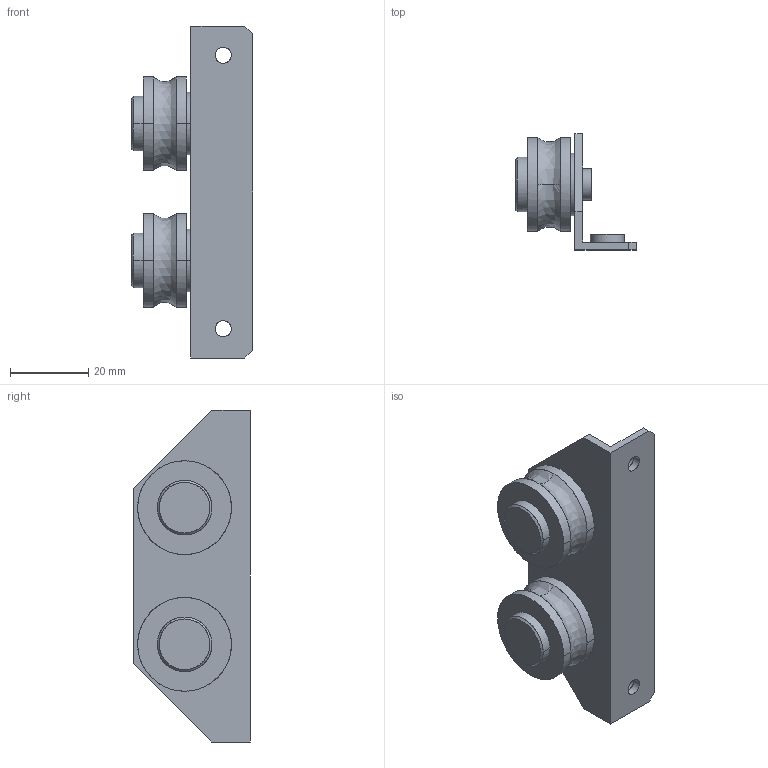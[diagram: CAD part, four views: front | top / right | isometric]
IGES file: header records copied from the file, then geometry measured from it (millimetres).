
Global section: file name: No Iges File Name specified; native system: AutoDesk Inventor R11.0; preprocessor: AutoDesk Inventor Iges Exporter R11.0; author: No Author specified; organization: No Organization specified; date: 20190511.110634; units: millimetre
Bounding box: 31 x 29.8 x 85 mm (x, y, z)
Surface area: 11384.6 mm2 (no closed solid volume)
Topology: 0 solids, 0 shells, 70 faces, 468 edges, 468 vertices
Faces by surface type: bspline 70
